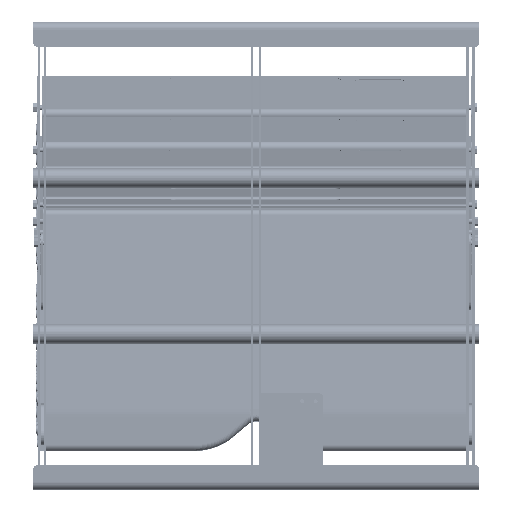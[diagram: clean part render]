
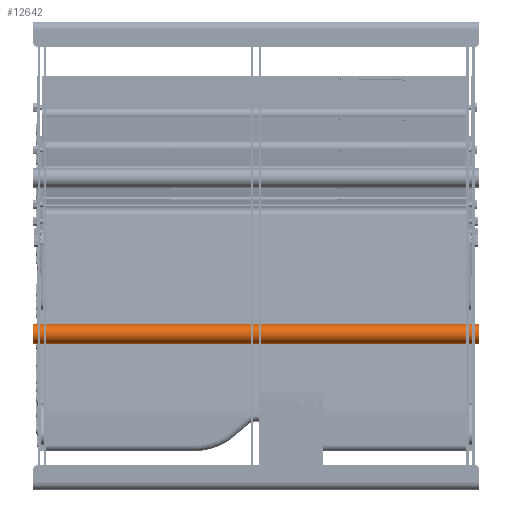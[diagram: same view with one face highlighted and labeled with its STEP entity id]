
A CAD part, top view. The second image highlights one B-rep face of the part: STEP entity #12642.
In plain terms, the highlighted cylindrical face has radius 15.875 mm (diameter 31.75 mm), a full revolution.
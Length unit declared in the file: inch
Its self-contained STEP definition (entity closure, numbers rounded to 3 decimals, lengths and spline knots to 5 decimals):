
#454=CYLINDRICAL_SURFACE('',#13628,0.625);
#836=CIRCLE('',#13629,0.625);
#837=CIRCLE('',#13630,0.625);
#1823=FACE_OUTER_BOUND('',#2619,.T.);
#2619=EDGE_LOOP('',(#9926,#9927,#9928,#9929));
#3771=LINE('',#20027,#4889);
#4889=VECTOR('',#16051,0.625);
#5926=VERTEX_POINT('',#20024);
#5927=VERTEX_POINT('',#20026);
#7361=EDGE_CURVE('',#5926,#5926,#836,.T.);
#7362=EDGE_CURVE('',#5926,#5927,#3771,.T.);
#7363=EDGE_CURVE('',#5927,#5927,#837,.T.);
#9926=ORIENTED_EDGE('',*,*,#7361,.T.);
#9927=ORIENTED_EDGE('',*,*,#7362,.T.);
#9928=ORIENTED_EDGE('',*,*,#7363,.F.);
#9929=ORIENTED_EDGE('',*,*,#7362,.F.);
#12642=ADVANCED_FACE('',(#1823),#454,.T.);
#13628=AXIS2_PLACEMENT_3D('',#20023,#16047,#16048);
#13629=AXIS2_PLACEMENT_3D('',#20025,#16049,#16050);
#13630=AXIS2_PLACEMENT_3D('',#20028,#16052,#16053);
#16047=DIRECTION('center_axis',(0.,0.,-1.));
#16048=DIRECTION('ref_axis',(-1.,0.,0.));
#16049=DIRECTION('center_axis',(0.,0.,1.));
#16050=DIRECTION('ref_axis',(1.,0.,0.));
#16051=DIRECTION('',(0.,0.,1.));
#16052=DIRECTION('center_axis',(0.,0.,1.));
#16053=DIRECTION('ref_axis',(1.,0.,0.));
#20023=CARTESIAN_POINT('Origin',(10.,-2.3,16.37127));
#20024=CARTESIAN_POINT('',(10.625,-2.3,-14.3035));
#20025=CARTESIAN_POINT('Origin',(10.,-2.3,-14.3035));
#20026=CARTESIAN_POINT('',(10.625,-2.3,14.3035));
#20027=CARTESIAN_POINT('',(10.625,-2.3,16.37127));
#20028=CARTESIAN_POINT('Origin',(10.,-2.3,14.3035));
